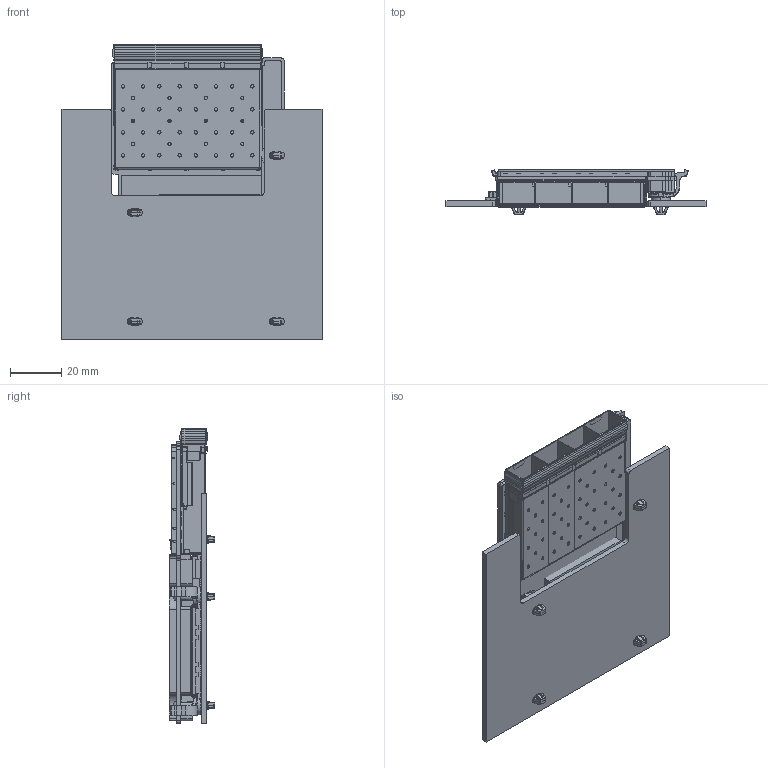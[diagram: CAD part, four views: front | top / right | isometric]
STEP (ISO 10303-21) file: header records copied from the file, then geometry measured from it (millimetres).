
FILE_DESCRIPTION((''),'2;1');
FILE_NAME('OCP-MZ-2_0-BD-ASSY_1X4SFP_8MM_ASM','2015-10-23T',('95030616'),(''),'PRO/ENGINEER BY PARAMETRIC TECHNOLOGY CORPORATION, 2013040','PRO/ENGINEER BY PARAMETRIC TECHNOLOGY CORPORATION, 2013040','');
FILE_SCHEMA(('AUTOMOTIVE_DESIGN { 1 0 10303 214 1 1 1 1 }'));
Products named in the file (19): OCP-2_0-BOARD_2; F01-LED-EVERLIGHT; CM-74754-0420-395450; 64POS-PLUG4; BTM-KEEPOUT-2MM; BTM-KEEPOUT-2_9MM; TOP-KEEPOUT-4_5MM; TOP-KEEPOUT-4_5MM-3; TOP-KEEPOUT-7_5MM; TOP-KEEPOUT-4MM; TOP-KEEPOUT-4MM-2; PORTION_MB_LEOPARD_E1_FILLED; FCI_61082_081402LF_LEOPARD_E1; CN120_GPN2_0-8_SMD_H_F-E1; 64POS-REC1; ASSY_PORTION_MB_LEOPARD_E1_ASM__ASM; F06-MEZZ-LATCH-LEFT-8MM; F06-MEZZ-LATCH-RIGHT-8MM; OCP-MZ-2_0-BD-ASSY_1X4SFP_8MM_ASM
Assembly tree (27 placements, depth 3):
  OCP-MZ-2_0-BD-ASSY_1X4SFP_8MM_ASM
    OCP-2_0-BOARD_2
    F01-LED-EVERLIGHT  x8
    CM-74754-0420-395450
    64POS-PLUG4
    BTM-KEEPOUT-2MM
    BTM-KEEPOUT-2_9MM
    TOP-KEEPOUT-4_5MM
    TOP-KEEPOUT-4_5MM-3
    TOP-KEEPOUT-7_5MM
    TOP-KEEPOUT-4MM
    TOP-KEEPOUT-4MM-2
    ASSY_PORTION_MB_LEOPARD_E1_ASM__ASM
      PORTION_MB_LEOPARD_E1_FILLED
      FCI_61082_081402LF_LEOPARD_E1
      CN120_GPN2_0-8_SMD_H_F-E1
      64POS-REC1
    F06-MEZZ-LATCH-LEFT-8MM
    F06-MEZZ-LATCH-RIGHT-8MM  x3
Bounding box: 101.72 x 17.77 x 115.25 mm (x, y, z)
Volume: 83672.7 mm3; surface area: 83925.6 mm2
Topology: 26 solids, 28 shells, 6066 faces, 16763 edges, 10665 vertices
Faces by surface type: plane 4422, cylinder 1014, bspline 363, sphere 125, cone 110, torus 32
Entity records: 223391 total; most frequent: CARTESIAN_POINT 43006, ORIENTED_EDGE 30254, DIRECTION 26350, EDGE_CURVE 15127, VECTOR 12882, LINE 12882, VERTEX_POINT 9727, PRESENTATION_STYLE_ASSIGNMENT 9311
